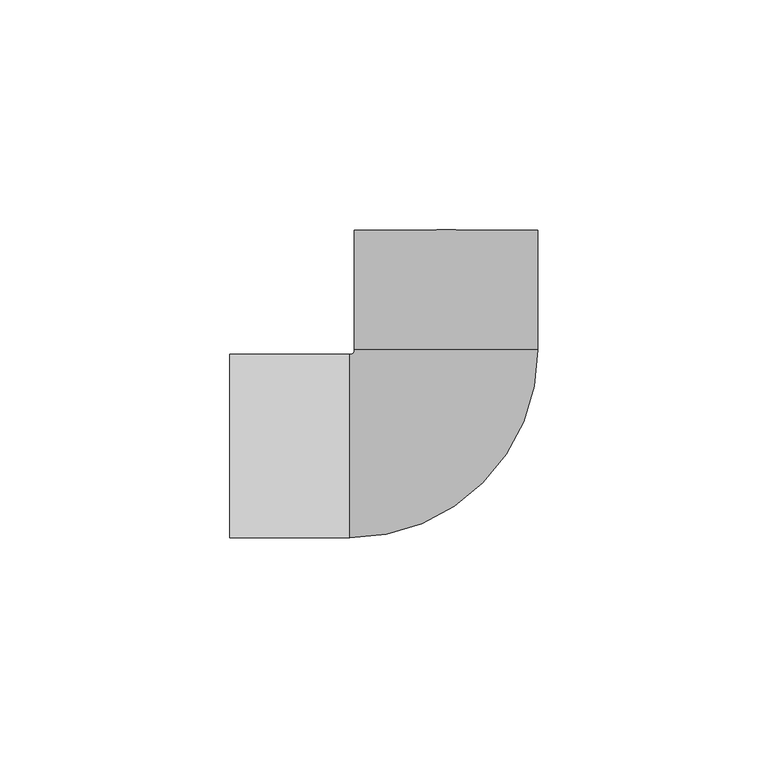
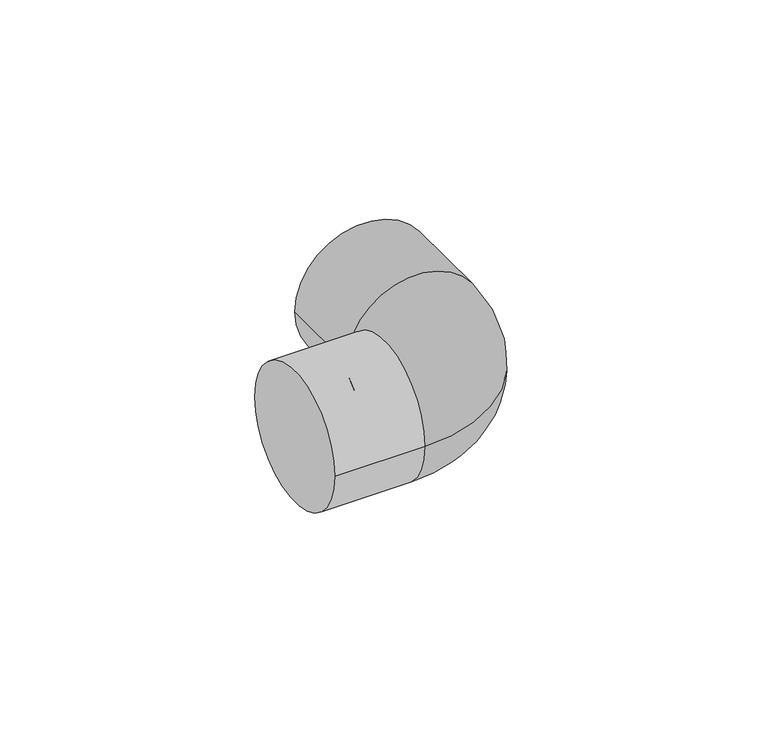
"""IFC4 building model written with IfcOpenShell, lengths in millimetres: pipe fitting geometry, 01051001 : Coudes à 90º."""

from ifc_helpers import new_model, si_unit, point, frame, origin, place, context, project, spatial, circle_curve, ellipse_curve, trimmed, source, transform, mapped, element, save
from ifc_brep_helpers import plane_surface, cylinder_surface, revolved_surface, advanced_brep


def pipe_fitting_74ec24ba(model_context):
    return source(origin(), model_context, "Body", "AdvancedBrep", [
        advanced_brep(
        [(-21.0, -19.95, 0.0), (19.95, 21.0, 0.0), (-19.95, 21.0, 0.0), (-21.0, 19.95, 0.0), (-19.95, 47.0, 0.0), (19.95, 47.0, 0.0), (-47.0, 19.95, 0.0), (-47.0, -19.95, 0.0)],
        [
            (0, 1, circle_curve(frame((-21.0, 21.0, 0.0), z_axis=(0.0, 0.0, 1.0), x_axis=(1.0, 0.0, 0.0)), 40.95)),
            (1, 2, circle_curve(frame((0.0, 21.0, 0.0), z_axis=(0.0, -1.0, 0.0), x_axis=(1.0, 0.0, 0.0)), 19.95)),
            (2, 3, circle_curve(frame((-21.0, 21.0, 0.0), z_axis=(0.0, 0.0, -1.0), x_axis=(1.0, 0.0, 0.0)), 1.05)),
            (3, 0, circle_curve(frame((-21.0, 0.0, 0.0), z_axis=(1.0, 0.0, 0.0), x_axis=(0.0, -1.0, 0.0)), 19.95)),
            (2, 1, circle_curve(frame((0.0, 21.0, 0.0), z_axis=(0.0, -1.0, 0.0), x_axis=(1.0, 0.0, 0.0)), 19.95)),
            (0, 3, circle_curve(frame((-21.0, 0.0, 0.0), z_axis=(1.0, 0.0, 0.0), x_axis=(0.0, -1.0, 0.0)), 19.95)),
            (4, 5, circle_curve(frame((0.0, 47.0, 0.0), z_axis=(0.0, 1.0, 0.0), x_axis=(1.0, 0.0, 0.0)), 19.95)),
            (5, 4, circle_curve(frame((0.0, 47.0, 0.0), z_axis=(0.0, 1.0, 0.0), x_axis=(1.0, 0.0, 0.0)), 19.95)),
            (4, 2),
            (1, 5),
            (6, 7, circle_curve(frame((-47.0, 0.0, 0.0), z_axis=(-1.0, 0.0, 0.0), x_axis=(0.0, -1.0, 0.0)), 19.95)),
            (7, 6, circle_curve(frame((-47.0, 0.0, 0.0), z_axis=(-1.0, 0.0, 0.0), x_axis=(0.0, -1.0, 0.0)), 19.95)),
            (3, 6),
            (7, 0),
        ],
        [
            revolved_surface(trimmed(ellipse_curve(frame((0.0, 21.0, 0.0), z_axis=(0.0, 1.0, 0.0), x_axis=(1.0, 0.0, 0.0)), 19.95, 19.95), [point((-19.95, 21.0, 0.0))], [point((19.95, 21.0, 0.0))], True, "CARTESIAN"), (-21.0, 21.0, 0.0), (0.0, 0.0, -1.0)),
            revolved_surface(trimmed(ellipse_curve(frame((0.0, 21.0, 0.0), z_axis=(0.0, 1.0, 0.0), x_axis=(1.0, 0.0, 0.0)), 19.95, 19.95), [point((19.95, 21.0, 0.0))], [point((-19.95, 21.0, 0.0))], True, "CARTESIAN"), (-21.0, 21.0, 0.0), (0.0, 0.0, -1.0)),
            plane_surface(frame((0.0, 47.0, 0.0), z_axis=(0.0, 1.0, 0.0), x_axis=(0.0, 0.0, 1.0))),
            cylinder_surface(frame((0.0, 47.0, 0.0), z_axis=(0.0, 1.0, 0.0), x_axis=(1.0, 0.0, 0.0)), 19.95),
            plane_surface(frame((-47.0, 0.0, 0.0), z_axis=(-1.0, 0.0, 0.0), x_axis=(0.0, 0.0, 1.0))),
            cylinder_surface(frame((-21.0, 0.0, 0.0), z_axis=(1.0, 0.0, 0.0), x_axis=(0.0, -1.0, 0.0)), 19.95),
        ],
        [
            (0, [[1, 2, 3, 4]]),
            (1, [[-3, 5, -1, 6]]),
            (2, [[7, 8]]),
            (3, [[-7, 9, -2, 10]]),
            (3, [[-8, -10, -5, -9]]),
            (4, [[11, 12]]),
            (5, [[-4, 13, -12, 14]]),
            (5, [[-6, -14, -11, -13]]),
        ],
    ),
    ])


if __name__ == "__main__":
    model = new_model("IFC4")
    model_context = context("Model", 3, world=origin())
    ifc_project = project(units=[si_unit("LENGTHUNIT", "METRE", prefix="MILLI")], contexts=[model_context])
    site = spatial("IfcSite", under=ifc_project)
    building = spatial("IfcBuilding", under=site)
    placement = place(None, origin())
    pipe_fitting_shape = pipe_fitting_74ec24ba(model_context)
    element("IfcPipeFitting", 1, ObjectType="01051001 : Coudes à 90º", at=placement, inside=building, context=model_context, shape_type="MappedRepresentation", body=[
        mapped(pipe_fitting_shape, transform((0.0, 0.0, 0.0), x_axis=(1.0, 0.0, 0.0), y_axis=(0.0, 1.0, 0.0), z_axis=(0.0, 0.0, 1.0))),
    ])
    save(model, "model.ifc")
